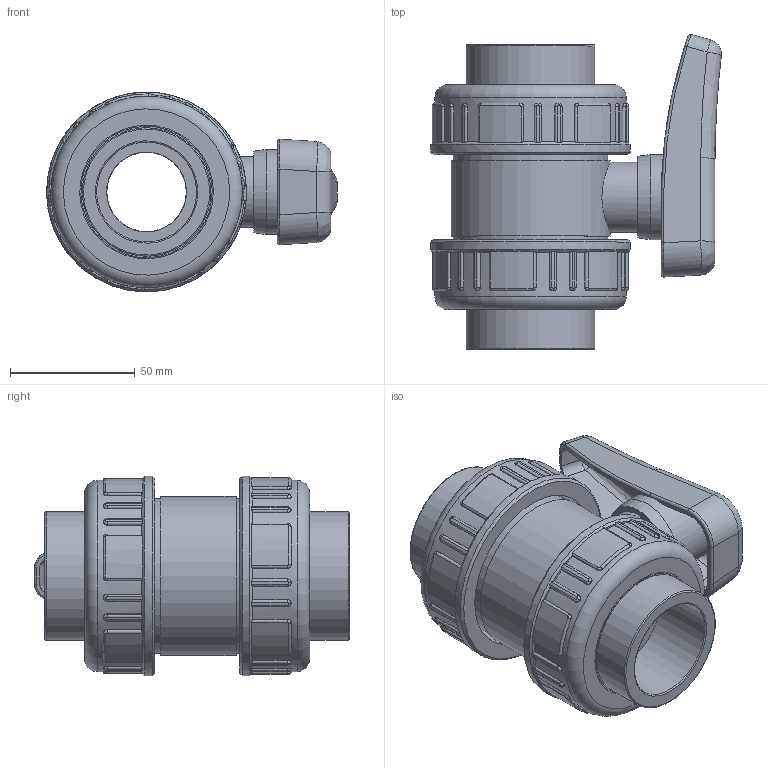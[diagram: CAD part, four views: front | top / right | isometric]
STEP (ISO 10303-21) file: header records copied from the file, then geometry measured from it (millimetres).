
FILE_DESCRIPTION(/* description */ (''),/* implementation_level */ '2;1');
FILE_NAME(/* name */ 'C:\Users\POLYPIPE\Desktop\DATASET INVENTOR\LIBRERIA EFFAST\3D_VALVOLE\3D_VALVOLE A SFERA\3D_BV\3D_BDRBVD\3D_BDRBVD0400.stp',/* time_stamp */ '2018-01-23T15:55:23+01:00',/* author */ ('POLYPIPE'),/* organization */ (''),/* preprocessor_version */ 'ST-DEVELOPER v16.1',/* originating_system */ 'Autodesk Inventor 2016',/* authorisation */ '');
FILE_SCHEMA (('CONFIG_CONTROL_DESIGN'));
Length unit declared in the file: centimetre
Products named in the file (1): 3D_BDRBVD0400
Bounding box: 116.38 x 126.15 x 79.99 mm (x, y, z)
Volume: 331401.7 mm3; surface area: 98774.9 mm2
Topology: 3 solids, 4 shells, 528 faces, 1342 edges, 841 vertices
Faces by surface type: plane 174, cylinder 167, bspline 158, torus 20, cone 5, sphere 4
Full cylindrical faces by diameter (mm): 18.1 x1, 28.1 x1, 31.8 x1, 32 x2, 34 x1, 35.3 x1, 40 x2, 47 x1, 51 x1, 51.5 x2, 52.6 x2, 53.5 x2, 59.7 x2, 61.8 x2, 63.7 x1, 65.6 x2, 76.6 x2, 80 x2
Entity records: 60508 total; most frequent: CARTESIAN_POINT 48141, ORIENTED_EDGE 2586, DIRECTION 2199, EDGE_CURVE 1290, AXIS2_PLACEMENT_3D 853, VERTEX_POINT 830, EDGE_LOOP 597, STYLED_ITEM 531
